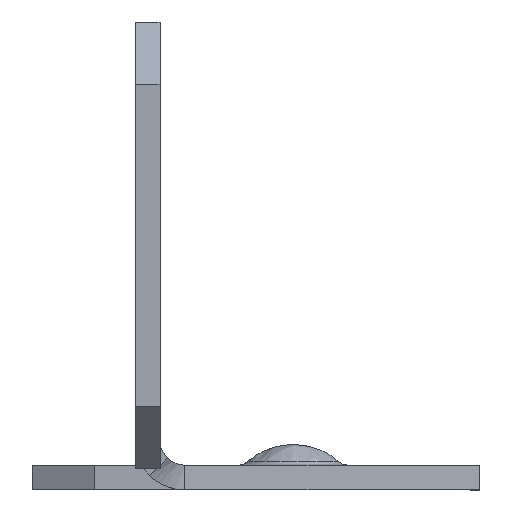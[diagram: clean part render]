
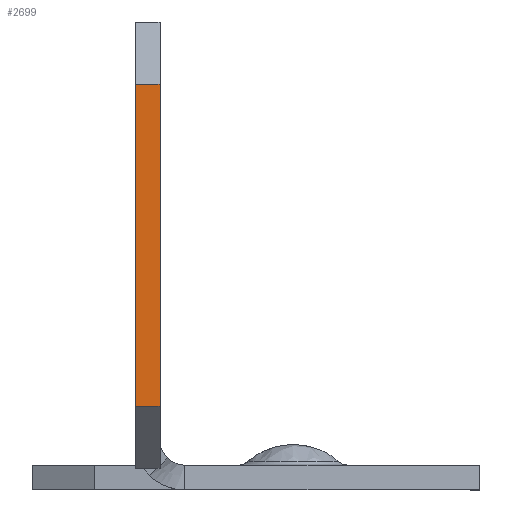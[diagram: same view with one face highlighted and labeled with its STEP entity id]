
A CAD part, front view. The second image highlights one B-rep face of the part: STEP entity #2699.
In plain terms, the highlighted planar face has unit normal (0, -1, 0).
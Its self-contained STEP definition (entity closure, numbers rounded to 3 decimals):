
#70 = LINE ( 'NONE', #1704, #3139 ) ;
#152 = CARTESIAN_POINT ( 'NONE',  ( -9.738, -125., 17.869 ) ) ;
#206 = VERTEX_POINT ( 'NONE', #2108 ) ;
#298 = PLANE ( 'NONE',  #1672 ) ;
#451 = CARTESIAN_POINT ( 'NONE',  ( -7.738, -125., -18.882 ) ) ;
#638 = VECTOR ( 'NONE', #3041, 1000. ) ;
#692 = VECTOR ( 'NONE', #1368, 1000. ) ;
#884 = DIRECTION ( 'NONE',  ( 0., 0., -1. ) ) ;
#889 = DIRECTION ( 'NONE',  ( 0., 0., -1. ) ) ;
#1368 = DIRECTION ( 'NONE',  ( 1., 0., 0. ) ) ;
#1397 = CARTESIAN_POINT ( 'NONE',  ( -9.738, -125., -13.131 ) ) ;
#1420 = EDGE_CURVE ( 'NONE', #2282, #206, #1486, .T. ) ;
#1486 = LINE ( 'NONE', #2669, #692 ) ;
#1672 = AXIS2_PLACEMENT_3D ( 'NONE', #1397, #2970, #884 ) ;
#1689 = ORIENTED_EDGE ( 'NONE', *, *, #2350, .T. ) ;
#1704 = CARTESIAN_POINT ( 'NONE',  ( -9.738, -125., -13.131 ) ) ;
#1851 = VERTEX_POINT ( 'NONE', #3018 ) ;
#1982 = VERTEX_POINT ( 'NONE', #152 ) ;
#2108 = CARTESIAN_POINT ( 'NONE',  ( -7.738, -125., -8.131 ) ) ;
#2261 = EDGE_LOOP ( 'NONE', ( #2976, #1689, #2908, #3349 ) ) ;
#2281 = VECTOR ( 'NONE', #2554, 1000. ) ;
#2282 = VERTEX_POINT ( 'NONE', #3185 ) ;
#2350 = EDGE_CURVE ( 'NONE', #1982, #2282, #70, .T. ) ;
#2446 = FACE_OUTER_BOUND ( 'NONE', #2261, .T. ) ;
#2463 = EDGE_CURVE ( 'NONE', #1851, #1982, #2977, .T. ) ;
#2554 = DIRECTION ( 'NONE',  ( -1., 0., 0. ) ) ;
#2669 = CARTESIAN_POINT ( 'NONE',  ( -9.738, -125., -8.131 ) ) ;
#2696 = LINE ( 'NONE', #451, #638 ) ;
#2699 = ADVANCED_FACE ( 'NONE', ( #2446 ), #298, .T. ) ;
#2815 = CARTESIAN_POINT ( 'NONE',  ( -9.738, -125., 17.869 ) ) ;
#2908 = ORIENTED_EDGE ( 'NONE', *, *, #1420, .T. ) ;
#2969 = EDGE_CURVE ( 'NONE', #1851, #206, #2696, .T. ) ;
#2970 = DIRECTION ( 'NONE',  ( 0., -1., 0. ) ) ;
#2976 = ORIENTED_EDGE ( 'NONE', *, *, #2463, .T. ) ;
#2977 = LINE ( 'NONE', #2815, #2281 ) ;
#3018 = CARTESIAN_POINT ( 'NONE',  ( -7.738, -125., 17.869 ) ) ;
#3041 = DIRECTION ( 'NONE',  ( 0., 0., -1. ) ) ;
#3139 = VECTOR ( 'NONE', #889, 1000. ) ;
#3185 = CARTESIAN_POINT ( 'NONE',  ( -9.738, -125., -8.131 ) ) ;
#3349 = ORIENTED_EDGE ( 'NONE', *, *, #2969, .F. ) ;
